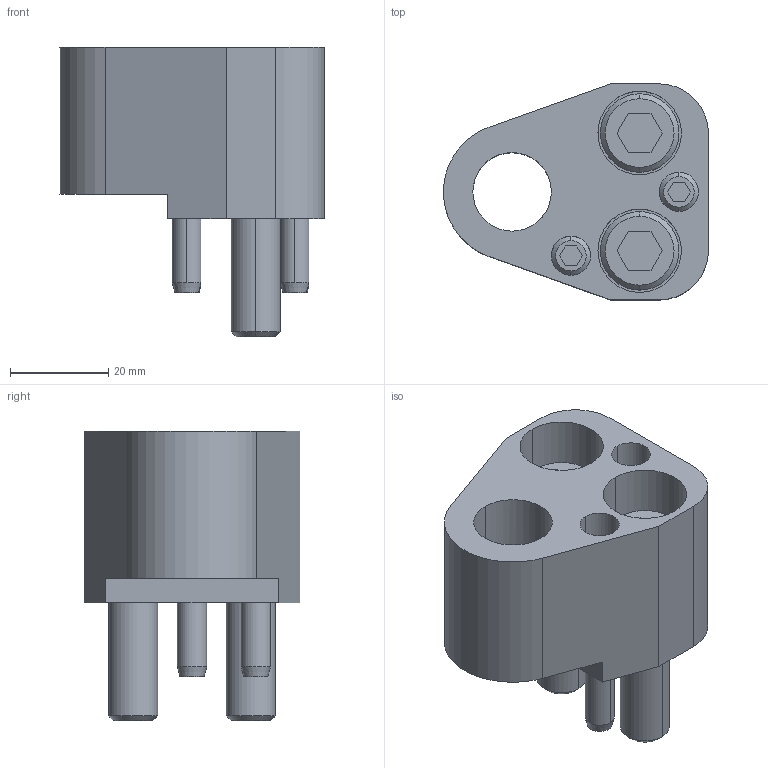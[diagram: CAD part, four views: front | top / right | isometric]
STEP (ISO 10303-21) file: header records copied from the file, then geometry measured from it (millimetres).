
FILE_DESCRIPTION(/* description */ (''),/* implementation_level */ '2;1');
FILE_NAME(/* name */ '3d_hapfr16_04013_r00.stp',/* time_stamp */ '2011-01-10T14:14:56+09:00',/* author */ ('MISUMI'),/* organization */ (''),/* preprocessor_version */ 'ST-DEVELOPER v11',/* originating_system */ 'UGS - NX 5.0',/* authorisation */ '');
FILE_SCHEMA (('CONFIG_CONTROL_DESIGN'));
Length unit declared in the file: millimetre
Products named in the file (1): 3d_hapfr16_04013_r00
Bounding box: 53.95 x 44 x 59 mm (x, y, z)
Volume: 54164.2 mm3; surface area: 21235.2 mm2
Topology: 7 solids, 7 shells, 134 faces, 298 edges, 191 vertices
Faces by surface type: plane 61, cylinder 47, cone 26
Entity records: 3858 total; most frequent: CARTESIAN_POINT 683, DIRECTION 682, ORIENTED_EDGE 596, EDGE_CURVE 298, AXIS2_PLACEMENT_3D 256, VERTEX_POINT 191, LINE 170, VECTOR 170
